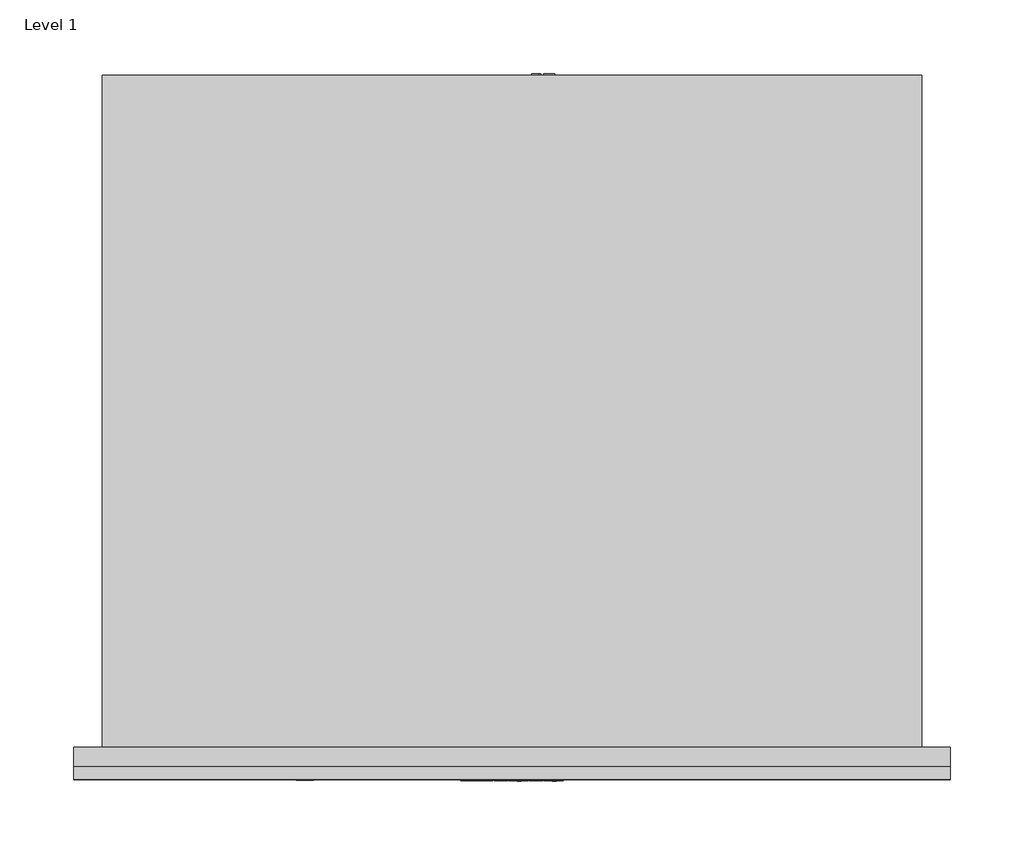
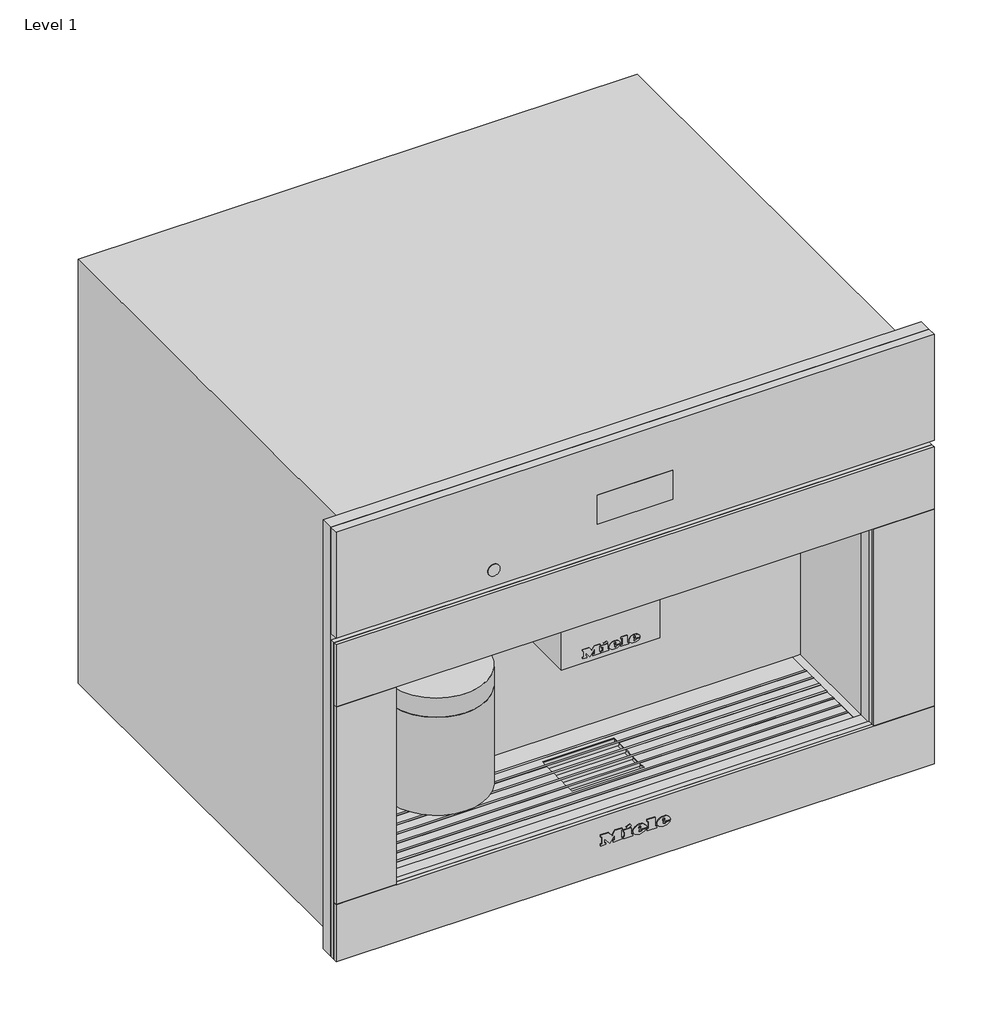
# One storey: 1 proxy.
"""IFC4 building model written with IfcOpenShell, lengths in millimetres."""

from ifc_helpers import new_model, si_unit, origin, place, context, project, spatial, transform, mapped, element, save
from components import specialty_equipment_fc41abb0

model = new_model("IFC4")

# Units and contexts
model_context = context("Model", 3, world=origin())
ifc_project = project(units=[si_unit("LENGTHUNIT", "METRE", prefix="MILLI")], contexts=[model_context])

# Site, building, storey
site = spatial("IfcSite", under=ifc_project)
building = spatial("IfcBuilding", under=site)
storey = spatial("IfcBuildingStorey", under=building, Name="Level 1", Elevation=0.0)

# Proxy
placement = place(None, origin())
specialty_equipment_shape = specialty_equipment_fc41abb0(model_context)
element("IfcBuildingElementProxy", 1, Name="11754280_USA_CVA7440_GRGR : 29744030_USA_11754280_CVA7440_GRGR", ObjectType="11754280_USA_CVA7440_GRGR : 29744030_USA_11754280_CVA7440_GRGR", at=placement, inside=storey, context=model_context, shape_type="MappedRepresentation", body=[
    mapped(specialty_equipment_shape, transform((0.0, 0.0, 0.0), x_axis=(1.0, 0.0, 0.0), y_axis=(0.0, 1.0, 0.0), z_axis=(0.0, 0.0, 1.0))),
])

save(model, "model.ifc")
